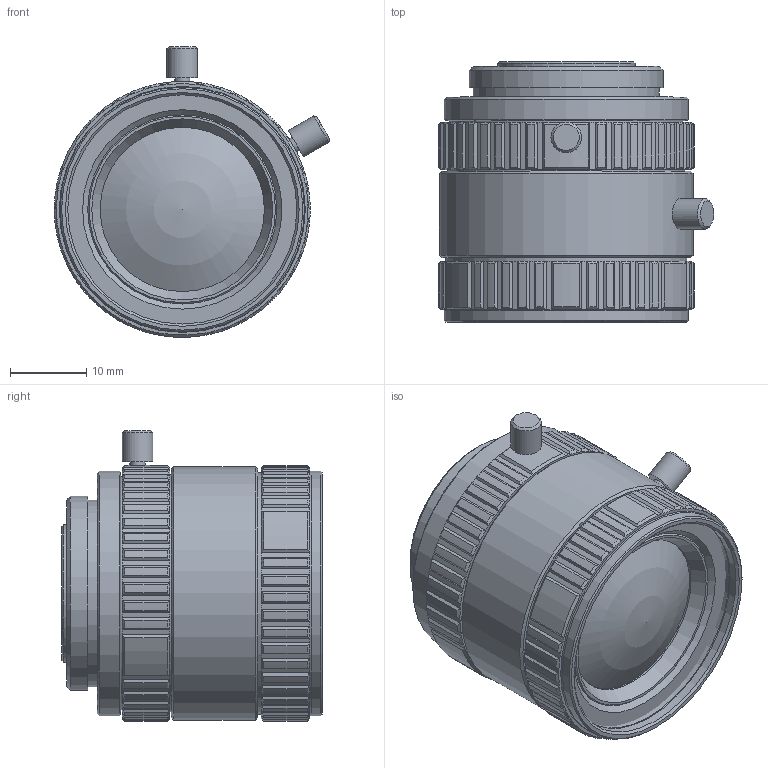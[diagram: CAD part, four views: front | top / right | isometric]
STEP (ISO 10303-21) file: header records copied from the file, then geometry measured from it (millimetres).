
FILE_DESCRIPTION(/* description */ ('Unknown'),/* implementation_level */ '2;1');
FILE_NAME(/* name */ 'M0814-MP2_210329',/* time_stamp */ '2021-04-05T10:56:45+09:00',/* author */ ('Unknown'),/* organization */ ('Unknown'),/* preprocessor_version */ 'ST-DEVELOPER v16.7',/* originating_system */ 'DEX',/* authorisation */ $);
FILE_SCHEMA (('AUTOMOTIVE_DESIGN { 1 0 10303 214 3 1 1 }','AUTOMOTIVE_DESIGN {1 0 10303 214 3 1 1}'));
Length unit declared in the file: millimetre
Products named in the file (3): M0814-MP2_210329; M0814-MP2_Infinity_210329; M0814-MP2_Mechanical Limit_210329
Assembly tree (2 placements, depth 2):
  M0814-MP2_210329
    M0814-MP2_Infinity_210329
    M0814-MP2_Mechanical Limit_210329
Bounding box: 36.05 x 34.07 x 38.04 mm (x, y, z)
Surface area: 15377.1 mm2
Topology: 2 solids, 2 shells, 1052 faces, 2358 edges, 1358 vertices
Faces by surface type: plane 356, cylinder 354, cone 338, sphere 4
Full cylindrical faces by diameter (mm): 2 x4, 4 x4, 12 x2, 15.5 x2, 16 x2, 18 x2, 21.5 x2, 22.5 x2, 23 x2, 24.4 x2, 25.4 x2, 30 x2, 30.5 x4, 31 x2, 31.4 x4, 31.6 x2, 31.808 x2, 32 x4, 32.2 x2, 33.2 x2
Entity records: 36343 total; most frequent: CARTESIAN_POINT 6531, DIRECTION 4802, ORIENTED_EDGE 4524, EDGE_CURVE 2262, AXIS2_PLACEMENT_3D 2097, VERTEX_POINT 1350, EDGE_LOOP 1188, FACE_BOUND 1188
